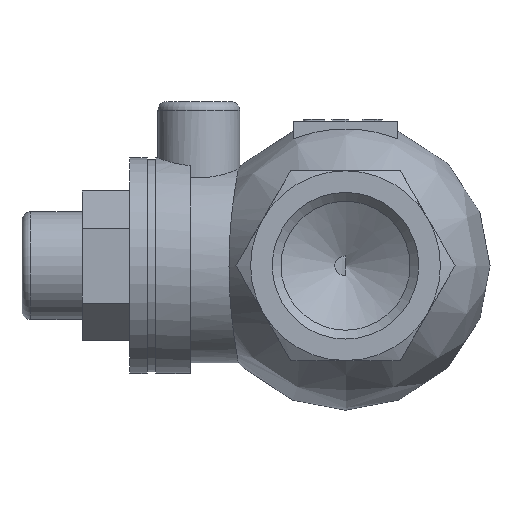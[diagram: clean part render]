
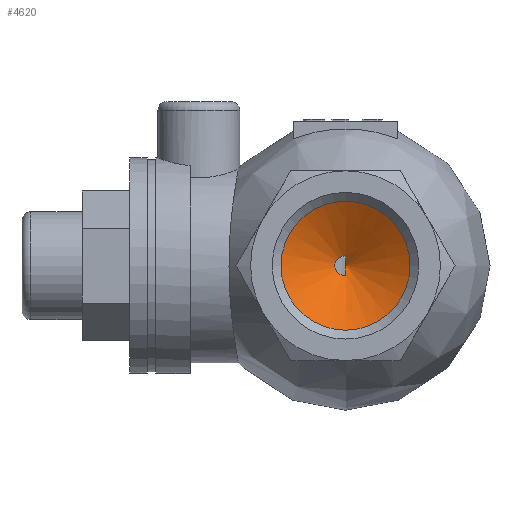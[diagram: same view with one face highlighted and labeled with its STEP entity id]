
A CAD part, left-side view. The second image highlights one B-rep face of the part: STEP entity #4620.
In plain terms, the highlighted conical face has half-angle 59 degrees and reference radius 3.737 mm.
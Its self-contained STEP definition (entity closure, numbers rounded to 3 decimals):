
#62=CONICAL_SURFACE('',#4878,3.738,1.03);
#513=B_SPLINE_CURVE_WITH_KNOTS('',3,(#8500,#8501,#8502,#8503,#8504,#8505,
#8506,#8507,#8508,#8509,#8510,#8511,#8512,#8513,#8514,#8515,#8516,#8517),
 .UNSPECIFIED.,.F.,.F.,(4,2,2,2,2,2,2,2,4),(0.,0.044,0.089,
0.134,0.179,0.224,0.269,0.313,
0.358),.UNSPECIFIED.);
#858=LINE('',#8521,#1225);
#859=LINE('',#8522,#1226);
#863=LINE('',#8557,#1230);
#1225=VECTOR('',#5658,10.);
#1226=VECTOR('',#5659,10.);
#1230=VECTOR('',#5701,3.738);
#1487=FACE_OUTER_BOUND('',#1774,.T.);
#1774=EDGE_LOOP('',(#4188,#4189,#4190,#4191,#4192,#4193,#4194));
#1881=CIRCLE('',#4879,7.475);
#1882=CIRCLE('',#4880,7.475);
#2292=VERTEX_POINT('',#8498);
#2293=VERTEX_POINT('',#8499);
#2294=VERTEX_POINT('',#8520);
#2305=VERTEX_POINT('',#8553);
#2306=VERTEX_POINT('',#8554);
#2925=EDGE_CURVE('',#2292,#2293,#513,.T.);
#2927=EDGE_CURVE('',#2292,#2294,#858,.T.);
#2928=EDGE_CURVE('',#2294,#2293,#859,.T.);
#2942=EDGE_CURVE('',#2305,#2306,#1881,.T.);
#2943=EDGE_CURVE('',#2306,#2305,#1882,.T.);
#2944=EDGE_CURVE('',#2306,#2292,#863,.T.);
#4188=ORIENTED_EDGE('',*,*,#2942,.F.);
#4189=ORIENTED_EDGE('',*,*,#2943,.F.);
#4190=ORIENTED_EDGE('',*,*,#2944,.T.);
#4191=ORIENTED_EDGE('',*,*,#2927,.T.);
#4192=ORIENTED_EDGE('',*,*,#2928,.T.);
#4193=ORIENTED_EDGE('',*,*,#2925,.F.);
#4194=ORIENTED_EDGE('',*,*,#2944,.F.);
#4620=ADVANCED_FACE('',(#1487),#62,.F.);
#4878=AXIS2_PLACEMENT_3D('',#8552,#5695,#5696);
#4879=AXIS2_PLACEMENT_3D('',#8555,#5697,#5698);
#4880=AXIS2_PLACEMENT_3D('',#8556,#5699,#5700);
#5658=DIRECTION('',(0.515,0.,-0.857));
#5659=DIRECTION('',(-0.515,0.,-0.857));
#5695=DIRECTION('center_axis',(-1.,0.,0.));
#5696=DIRECTION('ref_axis',(0.,0.,-1.));
#5697=DIRECTION('center_axis',(1.,0.,0.));
#5698=DIRECTION('ref_axis',(0.,0.,-1.));
#5699=DIRECTION('center_axis',(1.,0.,0.));
#5700=DIRECTION('ref_axis',(0.,0.,-1.));
#5701=DIRECTION('',(0.515,0.,-0.857));
#8498=CARTESIAN_POINT('',(-11.192,0.,1.138));
#8499=CARTESIAN_POINT('',(-11.192,0.,-1.138));
#8500=CARTESIAN_POINT('Ctrl Pts',(-11.192,0.,
1.138));
#8501=CARTESIAN_POINT('Ctrl Pts',(-11.192,0.148,1.138));
#8502=CARTESIAN_POINT('Ctrl Pts',(-11.195,0.306,1.112));
#8503=CARTESIAN_POINT('Ctrl Pts',(-11.205,0.602,1.003));
#8504=CARTESIAN_POINT('Ctrl Pts',(-11.213,0.739,0.921));
#8505=CARTESIAN_POINT('Ctrl Pts',(-11.227,0.963,0.724));
#8506=CARTESIAN_POINT('Ctrl Pts',(-11.235,1.064,0.596));
#8507=CARTESIAN_POINT('Ctrl Pts',(-11.247,1.199,0.309));
#8508=CARTESIAN_POINT('Ctrl Pts',(-11.25,1.234,0.15));
#8509=CARTESIAN_POINT('Ctrl Pts',(-11.25,1.234,-0.15));
#8510=CARTESIAN_POINT('Ctrl Pts',(-11.247,1.199,-0.309));
#8511=CARTESIAN_POINT('Ctrl Pts',(-11.235,1.064,-0.596));
#8512=CARTESIAN_POINT('Ctrl Pts',(-11.227,0.963,-0.724));
#8513=CARTESIAN_POINT('Ctrl Pts',(-11.213,0.739,-0.921));
#8514=CARTESIAN_POINT('Ctrl Pts',(-11.205,0.602,-1.003));
#8515=CARTESIAN_POINT('Ctrl Pts',(-11.195,0.306,-1.112));
#8516=CARTESIAN_POINT('Ctrl Pts',(-11.192,0.148,-1.138));
#8517=CARTESIAN_POINT('Ctrl Pts',(-11.192,0.,
-1.138));
#8520=CARTESIAN_POINT('',(-10.509,0.,0.));
#8521=CARTESIAN_POINT('',(-12.754,0.,3.738));
#8522=CARTESIAN_POINT('',(-12.754,0.,-3.738));
#8552=CARTESIAN_POINT('Origin',(-12.754,0.,0.));
#8553=CARTESIAN_POINT('',(-15.,0.,-7.475));
#8554=CARTESIAN_POINT('',(-15.,0.,7.475));
#8555=CARTESIAN_POINT('Origin',(-15.,0.,0.));
#8556=CARTESIAN_POINT('Origin',(-15.,0.,0.));
#8557=CARTESIAN_POINT('',(-12.754,0.,3.738));
